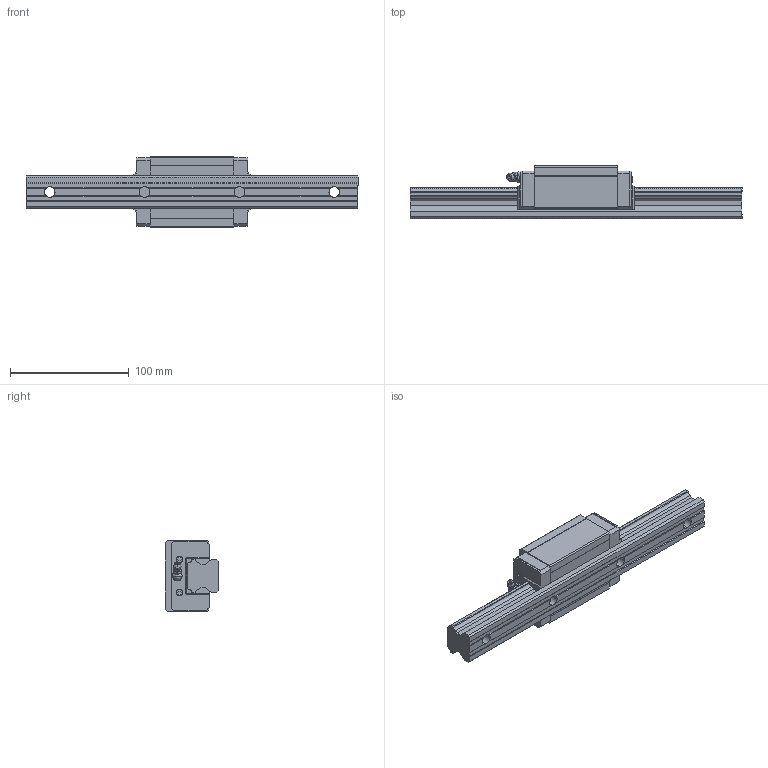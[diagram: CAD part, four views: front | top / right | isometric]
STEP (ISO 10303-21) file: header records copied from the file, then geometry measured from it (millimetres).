
FILE_DESCRIPTION (( 'STEP AP203' ), '1' );
FILE_NAME ('HSV30RSS.STEP', '2016-03-14T13:46:50', ( 'EOS' ), ( '' ), 'SwSTEP 2.0', 'SolidWorks 2016', '' );
FILE_SCHEMA (( 'CONFIG_CONTROL_DESIGN' ));
Length unit declared in the file: millimetre
Products named in the file (4): 1; 3; HSV30R; HSV30RSS
Assembly tree (3 placements, depth 2):
  HSV30RSS
    1
    HSV30R
    3
Bounding box: 280 x 45 x 60 mm (x, y, z)
Volume: 321525.8 mm3; surface area: 63202.6 mm2
Topology: 3 solids, 3 shells, 303 faces, 807 edges, 512 vertices
Faces by surface type: plane 202, cylinder 48, cone 36, bspline 17
Entity records: 10013 total; most frequent: CARTESIAN_POINT 2204, ORIENTED_EDGE 1582, DIRECTION 1484, EDGE_CURVE 791, VECTOR 568, LINE 568, VERTEX_POINT 512, AXIS2_PLACEMENT_3D 458
